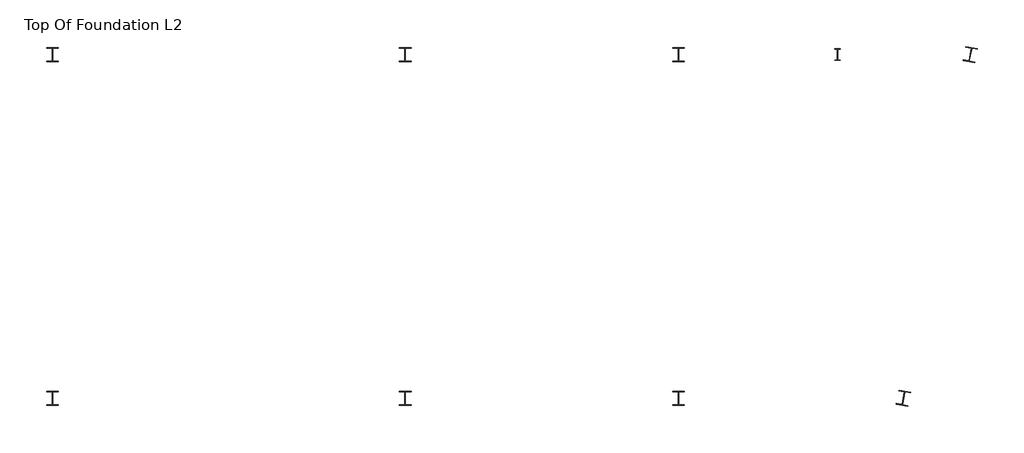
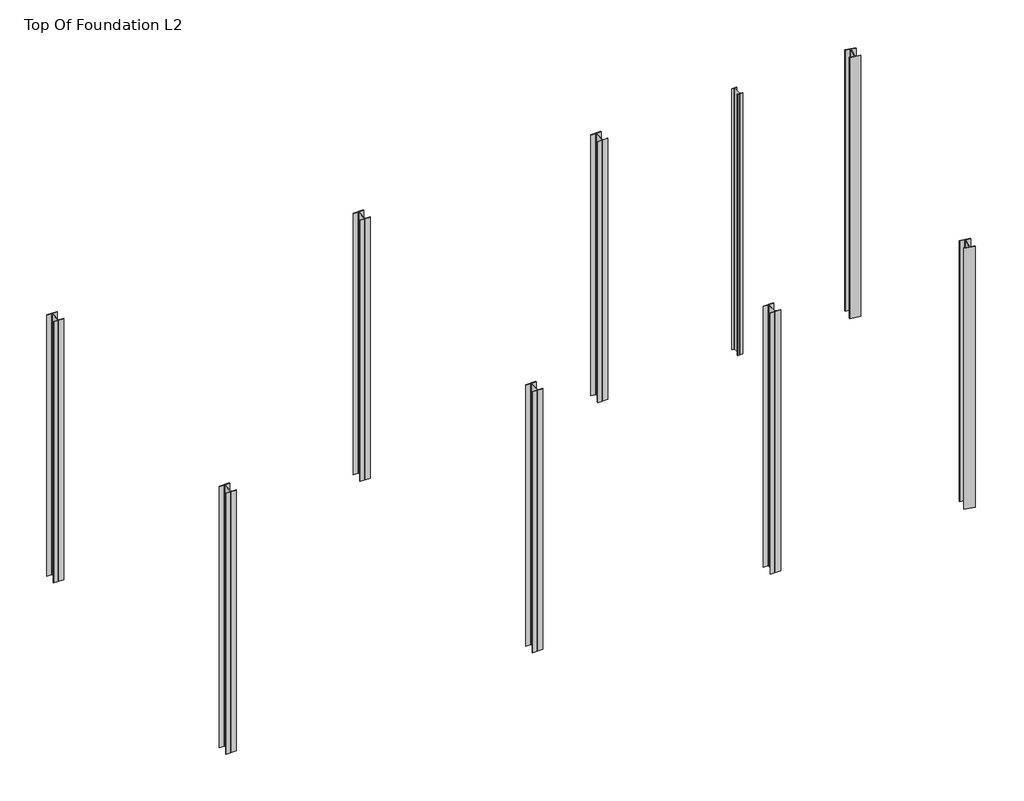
# One storey: 9 columns.
"""IFC4 building model written with IfcOpenShell, lengths in millimetres."""

import ifcopenshell
import ifcopenshell.guid

model = None  # the IFC model being written
_history = None  # IfcOwnerHistory: only IFC2X3 demands one
_inside = {}  # id of a spatial element -> (the spatial element, [elements in it])
_under = {}  # id of a project, library or spatial element -> (it, [spatial elements below it])
_declared = {}  # id of a project -> (the project, [libraries it declares])
_typed = {}  # id of a type object -> (the type object, [elements of that type])
_made_of = {}  # id of a material, layer set ... -> (it, [elements and type objects made of it])


def new_model(schema):
    """Start an empty IFC model of exactly this schema.

    Asked for "IFC4X3", IfcOpenShell would pick the latest addendum, in which some entities
    have other attributes; the version numbers below select the first issue.
    IFC2X3 requires an IfcOwnerHistory on every rooted entity: one is made here for all.
    """
    global model, _history
    if schema == "IFC4X3":
        model = ifcopenshell.file(schema_version=(4, 3, 0, 0))
    else:
        model = ifcopenshell.file(schema=schema)
    _inside.clear()
    _under.clear()
    _declared.clear()
    _typed.clear()
    _made_of.clear()
    _history = None
    if model.schema == "IFC2X3":
        org = make("IfcOrganization", Name="unknown")
        user = make(
            "IfcPersonAndOrganization",
            ThePerson=make("IfcPerson", FamilyName="unknown"),
            TheOrganization=org,
        )
        app = make(
            "IfcApplication",
            ApplicationDeveloper=org,
            Version="unknown",
            ApplicationFullName="unknown",
            ApplicationIdentifier="unknown",
        )
        _history = make(
            "IfcOwnerHistory",
            OwningUser=user,
            OwningApplication=app,
            ChangeAction="ADDED",
            CreationDate=0,
        )
    return model


def make(cls, **values):
    """One entity of the class cls with the attributes given. An attribute that is None is left unset."""
    return model.create_entity(
        cls, **{name: value for name, value in values.items() if value is not None}
    )


def rooted(cls, **values):
    """An entity with a GlobalId (a new one), such as an element, a storey or a relation."""
    return make(cls, GlobalId=ifcopenshell.guid.new(), OwnerHistory=_history, **values)


def si_unit(unit_type, name, prefix=None):
    """IfcSIUnit, for example si_unit("LENGTHUNIT", "METRE", prefix="MILLI")."""
    return make("IfcSIUnit", UnitType=unit_type, Prefix=prefix, Name=name)


def assignment(units):
    """IfcUnitAssignment: the units of a project."""
    return None if units is None else make("IfcUnitAssignment", Units=units)


def point(xyz):
    """IfcCartesianPoint."""
    return None if xyz is None else make("IfcCartesianPoint", Coordinates=xyz)


def direction(xyz):
    """IfcDirection."""
    return None if xyz is None else make("IfcDirection", DirectionRatios=xyz)


def frame(location, z_axis=None, x_axis=None):
    """IfcAxis2Placement3D, a coordinate frame: its origin and axes. An axis left out is left unset."""
    return make(
        "IfcAxis2Placement3D",
        Location=point(location),
        Axis=direction(z_axis),
        RefDirection=direction(x_axis),
    )


def frame_2d(location, x_axis=None):
    """IfcAxis2Placement2D, a coordinate frame in the plane: its origin and x axis."""
    return make(
        "IfcAxis2Placement2D", Location=point(location), RefDirection=direction(x_axis)
    )


def origin():
    """The frame at (0, 0, 0) with its axes left unset."""
    return frame((0.0, 0.0, 0.0))


def place(relative_to, where):
    """IfcLocalPlacement: puts the frame where relative to a parent placement (None: the world)."""
    return make(
        "IfcLocalPlacement", PlacementRelTo=relative_to, RelativePlacement=where
    )


def context(
    kind, dimensions, precision=None, world=None, true_north=None, identifier=None
):
    """IfcGeometricRepresentationContext, for example the 3D "Model" context."""
    return make(
        "IfcGeometricRepresentationContext",
        ContextIdentifier=identifier,
        ContextType=kind,
        CoordinateSpaceDimension=dimensions,
        Precision=precision,
        WorldCoordinateSystem=world,
        TrueNorth=true_north,
    )


def project(units=None, contexts=None):
    """IfcProject with its units and contexts."""
    return rooted(
        "IfcProject",
        Name="project",
        RepresentationContexts=contexts,
        UnitsInContext=assignment(units),
    )


def spatial(cls, under=None, at=None, **own):
    """A site, building, storey or space (cls), placed at a placement, below another one or the project."""
    s = rooted(cls, ObjectPlacement=at, **own)
    if under is not None:
        _under.setdefault(under.id(), (under, []))[1].append(s)
    return s


def polyline(points):
    """IfcPolyline through the points."""
    return make("IfcPolyline", Points=[point(p) for p in points])


def circle_curve(where, radius):
    """IfcCircle in the frame where."""
    return make("IfcCircle", Position=where, Radius=radius)


def trimmed(basis, trim1, trim2, sense, master):
    """IfcTrimmedCurve: the piece of a basis curve between two trims."""
    return make(
        "IfcTrimmedCurve",
        BasisCurve=basis,
        Trim1=trim1,
        Trim2=trim2,
        SenseAgreement=sense,
        MasterRepresentation=master,
    )


def segment(curve, same_sense, transition):
    """IfcCompositeCurveSegment."""
    return make(
        "IfcCompositeCurveSegment",
        Transition=transition,
        SameSense=same_sense,
        ParentCurve=curve,
    )


def composite_curve(segments, self_intersect=None):
    """IfcCompositeCurve: segments joined end to end."""
    return make("IfcCompositeCurve", Segments=segments, SelfIntersect=self_intersect)


def outline(outer, holes=None, kind="AREA"):
    """IfcArbitraryClosedProfileDef: a profile drawn as a closed curve; with holes, ...WithVoids."""
    if holes is None:
        return make("IfcArbitraryClosedProfileDef", ProfileType=kind, OuterCurve=outer)
    return make(
        "IfcArbitraryProfileDefWithVoids",
        ProfileType=kind,
        OuterCurve=outer,
        InnerCurves=holes,
    )


def extrude(swept, where, along, depth):
    """IfcExtrudedAreaSolid: the profile swept, set in the frame where, extruded along a direction by depth."""
    return make(
        "IfcExtrudedAreaSolid",
        SweptArea=swept,
        Position=where,
        ExtrudedDirection=direction(along),
        Depth=depth,
    )


def shape(context_of_items, identifier, shape_type, items):
    """IfcShapeRepresentation: the items that make up one representation, for example the "Body"."""
    return make(
        "IfcShapeRepresentation",
        ContextOfItems=context_of_items,
        RepresentationIdentifier=identifier,
        RepresentationType=shape_type,
        Items=items,
    )


def source(mapping_origin, context_of_items, identifier, shape_type, items):
    """IfcRepresentationMap: a shape defined once, which mapped items show again and again."""
    return make(
        "IfcRepresentationMap",
        MappingOrigin=mapping_origin,
        MappedRepresentation=shape(context_of_items, identifier, shape_type, items),
    )


def transform(
    local_origin,
    x_axis=None,
    y_axis=None,
    z_axis=None,
    scale=None,
    scale2=None,
    scale3=None,
    uniform=True,
):
    """IfcCartesianTransformationOperator3D, or its non-uniform kind. x_axis, y_axis, z_axis: its Axis1, 2, 3."""
    if uniform:
        return make(
            "IfcCartesianTransformationOperator3D",
            Axis1=direction(x_axis),
            Axis2=direction(y_axis),
            LocalOrigin=point(local_origin),
            Scale=scale,
            Axis3=direction(z_axis),
        )
    return make(
        "IfcCartesianTransformationOperator3DnonUniform",
        Axis1=direction(x_axis),
        Axis2=direction(y_axis),
        LocalOrigin=point(local_origin),
        Scale=scale,
        Axis3=direction(z_axis),
        Scale2=scale2,
        Scale3=scale3,
    )


def mapped(mapping_source, mapping_target):
    """IfcMappedItem: shows the shape of a source again, moved by a transform."""
    return make(
        "IfcMappedItem", MappingSource=mapping_source, MappingTarget=mapping_target
    )


def made_of(thing, what):
    """Note that an element or type object is made of a material, layer set ...; save() writes the relation."""
    if what is not None:
        _made_of.setdefault(what.id(), (what, []))[1].append(thing)
    return thing


def element(
    cls,
    number,
    at=None,
    inside=None,
    cuts=None,
    type_object=None,
    material=None,
    context=None,
    identifier="Body",
    shape_type=None,
    held_by="IfcProductDefinitionShape",
    body=None,
    shapes=None,
    **own,
):
    """One element of the class cls, such as IfcWall. Its Tag is "e" and its number.

    at: its placement. inside: the storey or other place that contains it. cuts: it is an
    opening in that element (IfcRelVoidsElement). A single representation is given by context,
    identifier, shape_type and body (its items); several are given by shapes. held_by: the class
    of the entity that holds the representations. save() writes the other relations.
    """
    e = rooted(cls, Tag="e%d" % number, ObjectPlacement=at, **own)
    if body is not None:
        shapes = [shape(context, identifier, shape_type, body)]
    if shapes is not None:
        e.Representation = make(held_by, Representations=shapes)
    if inside is not None:
        _inside.setdefault(inside.id(), (inside, []))[1].append(e)
    if cuts is not None:
        rooted(
            "IfcRelVoidsElement", RelatingBuildingElement=cuts, RelatedOpeningElement=e
        )
    if type_object is not None:
        _typed.setdefault(type_object.id(), (type_object, []))[1].append(e)
    return made_of(e, material)


def aggregate(whole, parts):
    """IfcRelAggregates: a whole, such as a stair, and the parts it consists of."""
    return rooted("IfcRelAggregates", RelatingObject=whole, RelatedObjects=parts)


def save(model, path):
    """Write the relations noted so far, then the file.

    IfcRelAggregates (storeys below a building ...), IfcRelContainedInSpatialStructure (elements
    in a storey), IfcRelDefinesByType, IfcRelAssociatesMaterial and IfcRelDeclares: one each for
    every whole, place, type object, material and project.
    """
    for whole, parts in _under.values():
        aggregate(whole, parts)
    for where, things in _inside.values():
        rooted(
            "IfcRelContainedInSpatialStructure",
            RelatedElements=things,
            RelatingStructure=where,
        )
    for kind, things in _typed.values():
        rooted("IfcRelDefinesByType", RelatedObjects=things, RelatingType=kind)
    for what, things in _made_of.values():
        rooted("IfcRelAssociatesMaterial", RelatedObjects=things, RelatingMaterial=what)
    for by, libraries in _declared.values():
        rooted("IfcRelDeclares", RelatingContext=by, RelatedDefinitions=libraries)
    model.write(path)


def w_shapes_column_w10x33_39db9c8d(model_context):
    return source(origin(), model_context, "Body", "SweptSolid", [
        extrude(outline(composite_curve([segment(polyline([(101.092, 123.571), (101.092, 112.522), (16.383, 112.522)]), True, "CONTINUOUS"), segment(trimmed(circle_curve(frame_2d((16.383, 99.822)), 12.7), [point((16.383, 112.522))], [point((3.683, 99.822))], True, "CARTESIAN"), True, "CONTINUOUS"), segment(polyline([(3.683, 99.822), (3.683, -99.822)]), True, "CONTINUOUS"), segment(trimmed(circle_curve(frame_2d((16.383, -99.822)), 12.7), [point((3.683, -99.822))], [point((16.383, -112.522))], True, "CARTESIAN"), True, "CONTINUOUS"), segment(polyline([(16.383, -112.522), (101.092, -112.522), (101.092, -123.571), (-101.092, -123.571), (-101.092, -112.522), (-16.383, -112.522)]), True, "CONTINUOUS"), segment(trimmed(circle_curve(frame_2d((-16.383, -99.822)), 12.7), [point((-16.383, -112.522))], [point((-3.683, -99.822))], True, "CARTESIAN"), True, "CONTINUOUS"), segment(polyline([(-3.683, -99.822), (-3.683, 99.822)]), True, "CONTINUOUS"), segment(trimmed(circle_curve(frame_2d((-16.383, 99.822)), 12.7), [point((-3.683, 99.822))], [point((-16.383, 112.522))], True, "CARTESIAN"), True, "CONTINUOUS"), segment(polyline([(-16.383, 112.522), (-101.092, 112.522), (-101.092, 123.571), (101.092, 123.571)]), True, "CONTINUOUS")], self_intersect=False)), frame((0.0, 0.0, -2438.4), z_axis=(0.0, 0.0, 1.0), x_axis=(1.0, 0.0, 0.0)), (0.0, 0.0, 1.0), 5486.4),
    ])


def w_shapes_column_w8x10_7c2514d8(model_context):
    return source(origin(), model_context, "Body", "SweptSolid", [
        extrude(outline(composite_curve([segment(polyline([(50.038, 100.203), (50.038, 94.996), (9.779, 94.996)]), True, "CONTINUOUS"), segment(trimmed(circle_curve(frame_2d((9.779, 87.376)), 7.62), [point((9.779, 94.996))], [point((2.159, 87.376))], True, "CARTESIAN"), True, "CONTINUOUS"), segment(polyline([(2.159, 87.376), (2.159, -87.376)]), True, "CONTINUOUS"), segment(trimmed(circle_curve(frame_2d((9.779, -87.376)), 7.62), [point((2.159, -87.376))], [point((9.779, -94.996))], True, "CARTESIAN"), True, "CONTINUOUS"), segment(polyline([(9.779, -94.996), (50.038, -94.996), (50.038, -100.203), (-50.038, -100.203), (-50.038, -94.996), (-9.779, -94.996)]), True, "CONTINUOUS"), segment(trimmed(circle_curve(frame_2d((-9.779, -87.376)), 7.62), [point((-9.779, -94.996))], [point((-2.159, -87.376))], True, "CARTESIAN"), True, "CONTINUOUS"), segment(polyline([(-2.159, -87.376), (-2.159, 87.376)]), True, "CONTINUOUS"), segment(trimmed(circle_curve(frame_2d((-9.779, 87.376)), 7.62), [point((-2.159, 87.376))], [point((-9.779, 94.996))], True, "CARTESIAN"), True, "CONTINUOUS"), segment(polyline([(-9.779, 94.996), (-50.038, 94.996), (-50.038, 100.203), (50.038, 100.203)]), True, "CONTINUOUS")], self_intersect=False)), frame((0.0, 0.0, -2438.4), z_axis=(0.0, 0.0, 1.0), x_axis=(1.0, 0.0, 0.0)), (0.0, 0.0, 1.0), 5486.4),
    ])


model = new_model("IFC4")

# Units and contexts
model_context = context("Model", 3, world=origin())
ifc_project = project(units=[si_unit("LENGTHUNIT", "METRE", prefix="MILLI")], contexts=[model_context])

# Site, building, storey
site = spatial("IfcSite", under=ifc_project)
building = spatial("IfcBuilding", under=site)
storey = spatial("IfcBuildingStorey", under=building, Name="Top Of Foundation L2", Elevation=-2438.4)

# Columns
placement = place(None, origin())
w_shapes_column_w10x33_shape = w_shapes_column_w10x33_39db9c8d(model_context)
element("IfcColumn", 1, ObjectType="W Shapes-Column : W10X33", at=placement, inside=storey, context=model_context, shape_type="MappedRepresentation", body=[
    mapped(w_shapes_column_w10x33_shape, transform((-36.5050229, -8425.7366747, 0.0), x_axis=(-1.0, 0.0, 0.0), y_axis=(0.0, -1.0, 0.0), z_axis=(0.0, 0.0, 1.0))),
])
element("IfcColumn", 2, ObjectType="W Shapes-Column : W10X33", at=placement, inside=storey, context=model_context, shape_type="MappedRepresentation", body=[
    mapped(w_shapes_column_w10x33_shape, transform((-36.5050229, -14369.3366747, 0.0), x_axis=(-1.0, 0.0, 0.0), y_axis=(0.0, -1.0, 0.0), z_axis=(0.0, 0.0, 1.0))),
])
element("IfcColumn", 3, ObjectType="W Shapes-Column : W10X33", at=placement, inside=storey, context=model_context, shape_type="MappedRepresentation", body=[
    mapped(w_shapes_column_w10x33_shape, transform((6059.4949771, -8425.7366747, 0.0), x_axis=(-1.0, 0.0, 0.0), y_axis=(0.0, -1.0, 0.0), z_axis=(0.0, 0.0, 1.0))),
])
element("IfcColumn", 4, ObjectType="W Shapes-Column : W10X33", at=placement, inside=storey, context=model_context, shape_type="MappedRepresentation", body=[
    mapped(w_shapes_column_w10x33_shape, transform((6059.4949771, -14369.3366747, 0.0), x_axis=(-1.0, 0.0, 0.0), y_axis=(0.0, -1.0, 0.0), z_axis=(0.0, 0.0, 1.0))),
])
element("IfcColumn", 5, ObjectType="W Shapes-Column : W10X33", at=placement, inside=storey, context=model_context, shape_type="MappedRepresentation", body=[
    mapped(w_shapes_column_w10x33_shape, transform((10783.8949771, -8425.7366747, 0.0), x_axis=(-1.0, 0.0, 0.0), y_axis=(0.0, -1.0, 0.0), z_axis=(0.0, 0.0, 1.0))),
])
element("IfcColumn", 6, ObjectType="W Shapes-Column : W10X33", at=placement, inside=storey, context=model_context, shape_type="MappedRepresentation", body=[
    mapped(w_shapes_column_w10x33_shape, transform((10783.8949771, -14369.3366747, 0.0), x_axis=(-1.0, 0.0, 0.0), y_axis=(0.0, -1.0, 0.0), z_axis=(0.0, 0.0, 1.0))),
])
element("IfcColumn", 7, ObjectType="W Shapes-Column : W10X33", at=placement, inside=storey, context=model_context, shape_type="MappedRepresentation", body=[
    mapped(w_shapes_column_w10x33_shape, transform((15824.1893724, -8425.7366747, 0.0), x_axis=(-0.9816271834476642, 0.1908089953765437, 0.0), y_axis=(-0.1908089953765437, -0.9816271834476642, 0.0), z_axis=(0.0, 0.0, 1.0))),
])
element("IfcColumn", 8, ObjectType="W Shapes-Column : W10X33", at=placement, inside=storey, context=model_context, shape_type="MappedRepresentation", body=[
    mapped(w_shapes_column_w10x33_shape, transform((14668.870567, -14369.3366747, 0.0), x_axis=(-0.9816271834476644, 0.1908089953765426, 0.0), y_axis=(-0.1908089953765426, -0.9816271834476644, 0.0), z_axis=(0.0, 0.0, 1.0))),
])
w_shapes_column_w8x10_shape = w_shapes_column_w8x10_7c2514d8(model_context)
element("IfcColumn", 9, ObjectType="W Shapes-Column : W8X10", at=placement, inside=storey, context=model_context, shape_type="MappedRepresentation", body=[
    mapped(w_shapes_column_w8x10_shape, transform((13527.0949771, -8425.7366747, 0.0), x_axis=(-1.0, 0.0, 0.0), y_axis=(0.0, -1.0, 0.0), z_axis=(0.0, 0.0, 1.0))),
])

save(model, "model.ifc")
